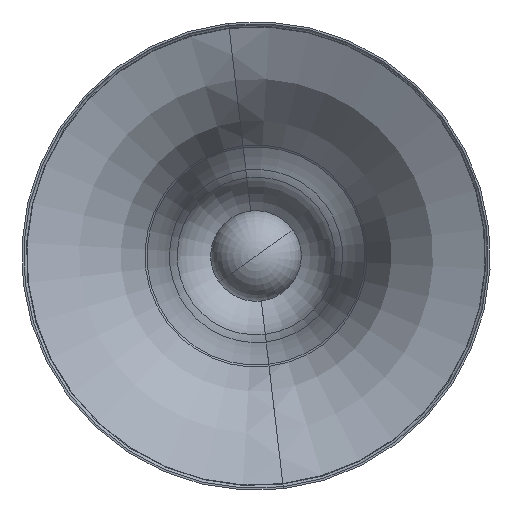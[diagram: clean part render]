
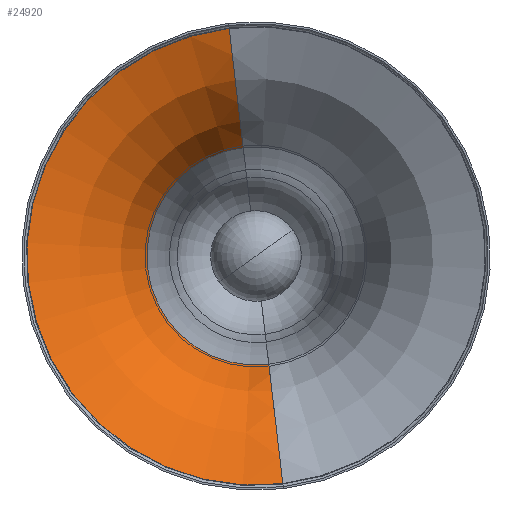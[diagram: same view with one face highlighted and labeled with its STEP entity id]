
A CAD part, front view. The second image highlights one B-rep face of the part: STEP entity #24920.
In plain terms, the highlighted toroidal (fillet/blend) face has major radius 133.343 mm and minor radius 83 mm.
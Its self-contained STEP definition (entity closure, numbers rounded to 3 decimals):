
#121 = CARTESIAN_POINT ( 'NONE',  ( 133.343, 84.151, 0. ) ) ;
#257 = AXIS2_PLACEMENT_3D ( 'NONE', #121, #20563, #14295 ) ;
#667 = DIRECTION ( 'NONE',  ( 0., 1., 0. ) ) ;
#2338 = CIRCLE ( 'NONE', #257, 83. ) ;
#3500 = DIRECTION ( 'NONE',  ( -1., 0., 0. ) ) ;
#4699 = CIRCLE ( 'NONE', #20576, 83. ) ;
#4842 = EDGE_LOOP ( 'NONE', ( #12985, #17462, #23111, #17231 ) ) ;
#5461 = CARTESIAN_POINT ( 'NONE',  ( -133.343, 84.151, 0. ) ) ;
#7269 = AXIS2_PLACEMENT_3D ( 'NONE', #23428, #9104, #19261 ) ;
#8493 = VERTEX_POINT ( 'NONE', #10676 ) ;
#9104 = DIRECTION ( 'NONE',  ( 0., 1., 0. ) ) ;
#9727 = TOROIDAL_SURFACE ( 'NONE', #10548, 133.343, 83. ) ;
#10548 = AXIS2_PLACEMENT_3D ( 'NONE', #15356, #23316, #3500 ) ;
#10676 = CARTESIAN_POINT ( 'NONE',  ( 113.967, 3.445, 0. ) ) ;
#11307 = CARTESIAN_POINT ( 'NONE',  ( 54.252, 58.978, 0. ) ) ;
#12664 = AXIS2_PLACEMENT_3D ( 'NONE', #24002, #667, #14076 ) ;
#12985 = ORIENTED_EDGE ( 'NONE', *, *, #20034, .F. ) ;
#14076 = DIRECTION ( 'NONE',  ( -1., 0., 0. ) ) ;
#14166 = CARTESIAN_POINT ( 'NONE',  ( -54.252, 58.978, 0. ) ) ;
#14295 = DIRECTION ( 'NONE',  ( 1., 0., 0. ) ) ;
#14630 = EDGE_CURVE ( 'NONE', #16701, #23735, #18088, .T. ) ;
#15246 = DIRECTION ( 'NONE',  ( -1., 0., 0. ) ) ;
#15356 = CARTESIAN_POINT ( 'NONE',  ( 0., 84.151, 0. ) ) ;
#15804 = VERTEX_POINT ( 'NONE', #20187 ) ;
#16701 = VERTEX_POINT ( 'NONE', #11307 ) ;
#17231 = ORIENTED_EDGE ( 'NONE', *, *, #23051, .F. ) ;
#17462 = ORIENTED_EDGE ( 'NONE', *, *, #14630, .T. ) ;
#18088 = CIRCLE ( 'NONE', #12664, 54.252 ) ;
#18497 = CIRCLE ( 'NONE', #7269, 113.967 ) ;
#19261 = DIRECTION ( 'NONE',  ( -1., 0., 0. ) ) ;
#20034 = EDGE_CURVE ( 'NONE', #16701, #8493, #2338, .T. ) ;
#20187 = CARTESIAN_POINT ( 'NONE',  ( -113.967, 3.445, 0. ) ) ;
#20563 = DIRECTION ( 'NONE',  ( 0., 0., 1. ) ) ;
#20576 = AXIS2_PLACEMENT_3D ( 'NONE', #5461, #21375, #15246 ) ;
#21227 = FACE_OUTER_BOUND ( 'NONE', #4842, .T. ) ;
#21375 = DIRECTION ( 'NONE',  ( 0., 0., -1. ) ) ;
#22903 = EDGE_CURVE ( 'NONE', #23735, #15804, #4699, .T. ) ;
#23051 = EDGE_CURVE ( 'NONE', #8493, #15804, #18497, .T. ) ;
#23111 = ORIENTED_EDGE ( 'NONE', *, *, #22903, .T. ) ;
#23316 = DIRECTION ( 'NONE',  ( 0., 1., 0. ) ) ;
#23428 = CARTESIAN_POINT ( 'NONE',  ( 0., 3.445, 0. ) ) ;
#23735 = VERTEX_POINT ( 'NONE', #14166 ) ;
#24002 = CARTESIAN_POINT ( 'NONE',  ( 0., 58.978, 0. ) ) ;
#24920 = ADVANCED_FACE ( 'NONE', ( #21227 ), #9727, .T. ) ;
